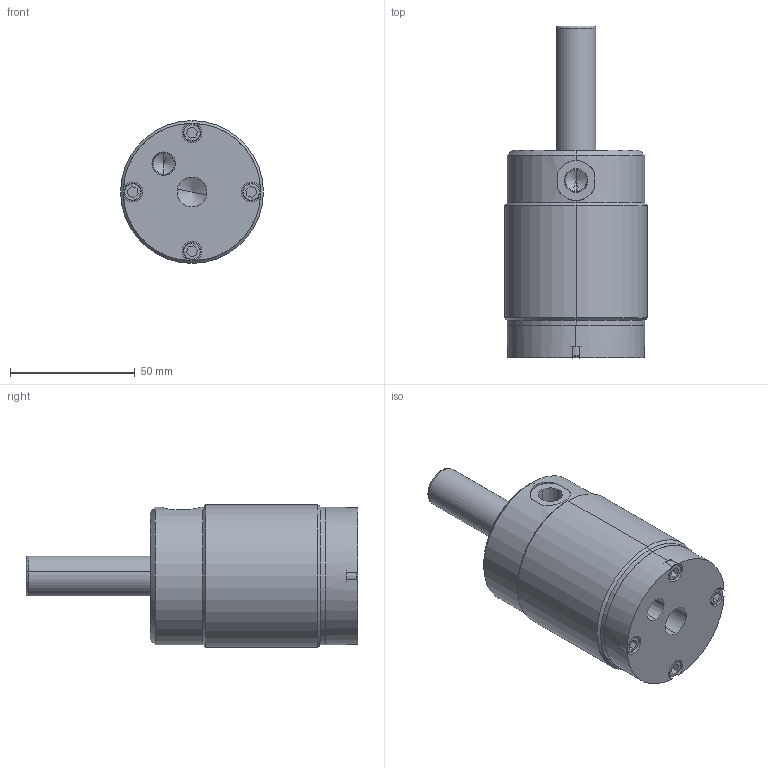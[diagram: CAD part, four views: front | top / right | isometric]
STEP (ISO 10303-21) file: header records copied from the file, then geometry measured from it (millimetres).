
FILE_DESCRIPTION((''),'2;1');
FILE_NAME('001_DESTACO_035_910_ASM','2024-02-29T',('SYSTEM'),(''),'PRO/ENGINEER BY PARAMETRIC TECHNOLOGY CORPORATION, 2016360','PRO/ENGINEER BY PARAMETRIC TECHNOLOGY CORPORATION, 2016360','');
FILE_SCHEMA(('AUTOMOTIVE_DESIGN { 1 0 10303 214 1 1 1 1 }'));
Products named in the file (10): 140BODY_5_RNM; 140BODY_4_RNM; 140BODY_3_RNM; 1; 140BODY_2_RNM; 140BODY_1_RNM; 140-BODY_ASM; 140BODY_6_RNM; 140-SHAFT_ASM; 001_DESTACO_035_910_ASM
Assembly tree (9 placements, depth 3):
  001_DESTACO_035_910_ASM
    140-BODY_ASM
      140BODY_5_RNM
      140BODY_4_RNM
      140BODY_3_RNM
      1
      140BODY_2_RNM
      140BODY_1_RNM
    140-SHAFT_ASM
      140BODY_6_RNM
Bounding box: 57.2 x 132.98 x 57.2 mm (x, y, z)
Volume: 200487 mm3; surface area: 37370.5 mm2
Topology: 7 solids, 7 shells, 167 faces, 385 edges, 234 vertices
Faces by surface type: cylinder 68, plane 53, cone 44, torus 2
Entity records: 6570 total; most frequent: DIRECTION 927, CARTESIAN_POINT 912, ORIENTED_EDGE 738, PRESENTATION_STYLE_ASSIGNMENT 376, STYLED_ITEM 376, CURVE_STYLE 369, AXIS2_PLACEMENT_3D 369, EDGE_CURVE 369
